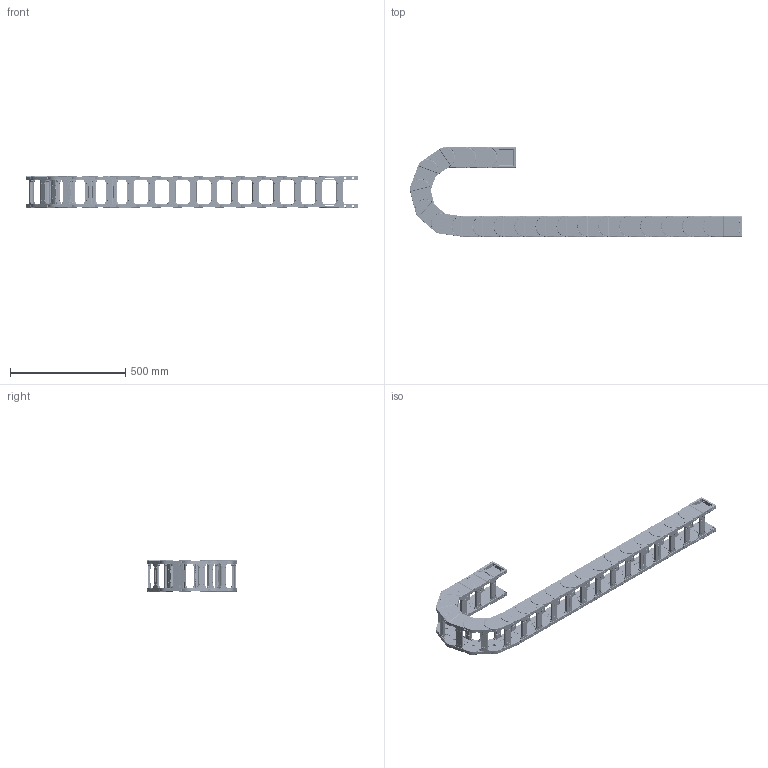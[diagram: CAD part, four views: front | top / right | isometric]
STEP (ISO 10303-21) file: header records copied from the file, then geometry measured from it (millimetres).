
FILE_DESCRIPTION (( 'STEP AP214' ), '1' );
FILE_NAME ('J60Q.1.100S-3D賦凳芞.STEP', '2019-01-10T01:10:03', ( 'Sky123.Org' ), ( 'Sky123.Org' ), 'SwSTEP 2.0', 'SolidWorks 2017', '' );
FILE_SCHEMA (( 'AUTOMOTIVE_DESIGN' ));
Length unit declared in the file: millimetre
Products named in the file (10): J60Q.1.100S-桥式-单节主体; J60-H80-100結え; J60Q.1-翋极-R-2018.3.30; J60Q.1-翋极-L-2018.3.30; J60Q.1.100S-3D賦凳芞; J60Q.1.100S-桥式-外接头; J60Q.1-源諉芛-W; J60Q.1.100S-桥式-内接头; 臏簽12X9; J60Q.1-源諉芛-N
Assembly tree (57 placements, depth 3):
  J60Q.1.100S-3D賦凳芞
    J60Q.1.100S-桥式-单节主体  x19
      J60Q.1-翋极-L-2018.3.30
      J60Q.1-翋极-R-2018.3.30
      J60-H80-100結え
    J60Q.1.100S-桥式-内接头
      J60Q.1-源諉芛-N  x2
      J60-H80-100結え  x2
      臏簽12X9  x12
    J60Q.1.100S-桥式-外接头
      J60Q.1-源諉芛-W  x2
      J60-H80-100結え  x2
      臏簽12X9  x12
Bounding box: 1442.11 x 388.53 x 140 mm (x, y, z)
Volume: 6495470.7 mm3; surface area: 2229625.3 mm2
Topology: 108 solids, 148 shells, 19975 faces, 52506 edges, 33104 vertices
Faces by surface type: plane 9891, cylinder 6288, bspline 1518, torus 1288, sphere 778, cone 212
Entity records: 36164 total; most frequent: CARTESIAN_POINT 8515, ORIENTED_EDGE 4950, DIRECTION 4876, EDGE_CURVE 2475, AXIS2_PLACEMENT_3D 1648, VERTEX_POINT 1583, LINE 1580, VECTOR 1580
